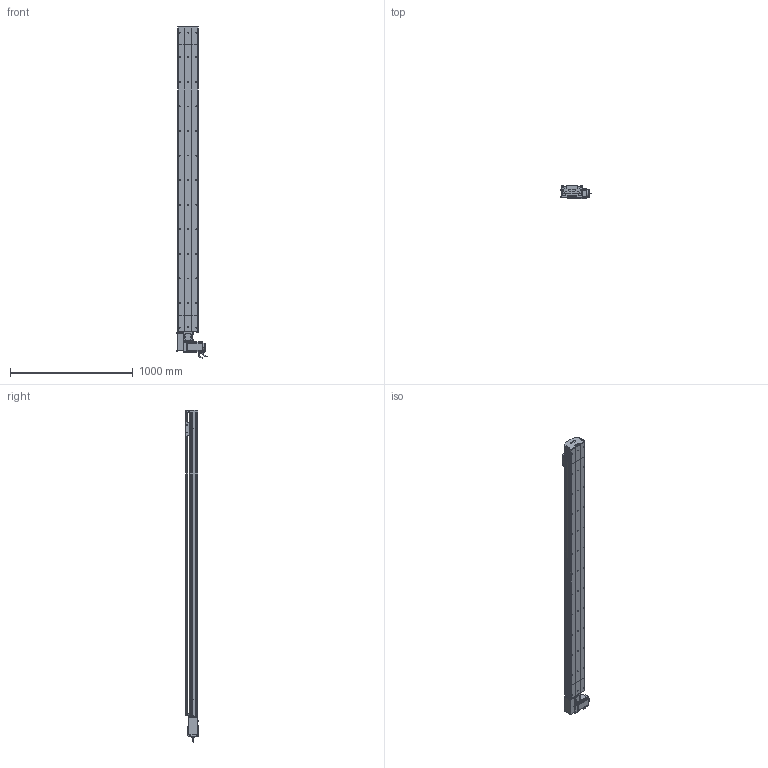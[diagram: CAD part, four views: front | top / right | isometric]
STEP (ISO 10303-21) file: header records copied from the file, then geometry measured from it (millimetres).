
FILE_DESCRIPTION (( 'STEP AP214' ), '1' );
FILE_NAME ('D17 TBN RH S2200.STEP', '2010-06-30T11:34:06', ( 'Christophe Gaillard' ), ( 'SGA' ), 'SwSTEP 2.0', 'SolidWorks 2010', '' );
FILE_SCHEMA (( 'AUTOMOTIVE_DESIGN' ));
Length unit declared in the file: millimetre
Products named in the file (40): vis M5 L25_Default; chariot D17 TBN; Chariot D17 TBN; Renvoi RH_Default; Tail D17B_Default; vis M5 L70_Default; corpl tail D17B_Default; tete d''axe poulie D17B; Plaque racord D17_Default; vis M5 L16_Default; poulie tail_Default; Couroie tail D17B_Default; couvercle D17B_Default; vis M5 L8 90°_Default; vis M5 L12_Default; Vis M5 L16-2_Default; D17 TBN RH S2200; couvercle D17B head_Default; cache arbre D17_Default; course 2200 D17B_Default; plaque de  bout head D17B RH_Default; Arbre+rail head D17B; cache D17_Default; vis M5 L5_Default; poulie head_Default; couroie head D17_Default; Moteur motionking 90BLDC125A-640; avant 90BLDC125A-640; corps 90BLDC125A-640; codeur 90BLDC125-640; Conecteur2_Default; plaque de  bout tail D17B_Default; Conecteur_Default; Rail D17B; guide D17; Couroie+ rail D17 Course 2200 ; corp D17B 2200_Default; couvercle D17B course L2200_Default; Head RH D17B_Default; corpl head D17 _Default
Assembly tree (66 placements, depth 4):
  D17 TBN RH S2200
    Head RH D17B_Default
      vis M5 L12_Default  x8
      vis M5 L16_Default  x2
      vis M5 L5_Default  x4
      Vis M5 L16-2_Default  x4
      vis M5 L70_Default  x4
      couroie head D17_Default
      cache D17_Default  x2
      couvercle D17B head_Default
      Arbre+rail head D17B
      Plaque racord D17_Default
      cache arbre D17_Default
      vis M5 L25_Default  x2
      plaque de  bout head D17B RH_Default
      corpl head D17 _Default
      poulie head_Default
      Renvoi RH_Default
      Moteur motionking 90BLDC125A-640
        avant 90BLDC125A-640
        Conecteur_Default
        corps 90BLDC125A-640
        Conecteur2_Default
        codeur 90BLDC125-640
    chariot D17 TBN
      Chariot D17 TBN
      guide D17  x2
    Tail D17B_Default
      vis M5 L25_Default  x2
      vis M5 L8 90°_Default  x2
      Couroie tail D17B_Default
      Rail D17B
      couvercle D17B_Default
      plaque de  bout tail D17B_Default
      vis M5 L12_Default  x4
      tete d''axe poulie D17B
      poulie tail_Default
      corpl tail D17B_Default
    course 2200 D17B_Default
      corp D17B 2200_Default
      Couroie+ rail D17 Course 2200 
      couvercle D17B course L2200_Default
Bounding box: 245.2 x 105.65 x 2700.95 mm (x, y, z)
Volume: 15180022.9 mm3; surface area: 4392176.9 mm2
Topology: 89 solids, 89 shells, 2603 faces, 6649 edges, 4286 vertices
Faces by surface type: plane 1533, cylinder 773, bspline 136, cone 80, torus 77, sphere 4
Entity records: 84395 total; most frequent: CARTESIAN_POINT 25135, ORIENTED_EDGE 10470, DIRECTION 9892, EDGE_CURVE 5235, VECTOR 3458, LINE 3458, VERTEX_POINT 3430, AXIS2_PLACEMENT_3D 3217
